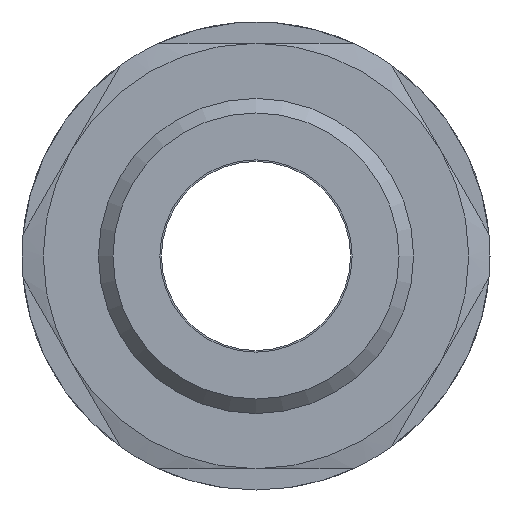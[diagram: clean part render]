
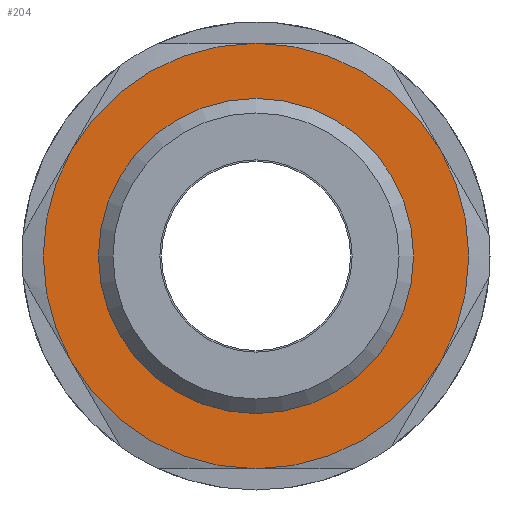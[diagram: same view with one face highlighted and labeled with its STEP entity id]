
A CAD part, front view. The second image highlights one B-rep face of the part: STEP entity #204.
In plain terms, the highlighted planar face has unit normal (0, -1, 0) as drawn and (1, 0, 0) by its records, which use the part's own axes.
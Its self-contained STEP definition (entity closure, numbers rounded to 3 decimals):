
#204 = ADVANCED_FACE( '', ( #423, #424 ), #425, .F. );
#423 = FACE_BOUND( '', #669, .T. );
#424 = FACE_OUTER_BOUND( '', #670, .T. );
#425 = PLANE( '', #671 );
#669 = EDGE_LOOP( '', ( #1069 ) );
#670 = EDGE_LOOP( '', ( #1070, #1071, #1072, #1073, #1074, #1075 ) );
#671 = AXIS2_PLACEMENT_3D( '', #1076, #1077, #1078 );
#1069 = ORIENTED_EDGE( '', *, *, #1520, .F. );
#1070 = ORIENTED_EDGE( '', *, *, #1485, .T. );
#1071 = ORIENTED_EDGE( '', *, *, #1521, .T. );
#1072 = ORIENTED_EDGE( '', *, *, #1449, .T. );
#1073 = ORIENTED_EDGE( '', *, *, #1522, .T. );
#1074 = ORIENTED_EDGE( '', *, *, #1504, .T. );
#1075 = ORIENTED_EDGE( '', *, *, #1416, .T. );
#1076 = CARTESIAN_POINT( '', ( 6., 13.5, 0. ) );
#1077 = DIRECTION( '', ( -1., 0., 0. ) );
#1078 = DIRECTION( '', ( 0., 0., 1. ) );
#1416 = EDGE_CURVE( '', #1668, #1665, #1669, .T. );
#1449 = EDGE_CURVE( '', #1725, #1722, #1726, .T. );
#1485 = EDGE_CURVE( '', #1665, #1711, #1780, .T. );
#1504 = EDGE_CURVE( '', #1700, #1668, #1808, .T. );
#1520 = EDGE_CURVE( '', #1827, #1827, #1828, .T. );
#1521 = EDGE_CURVE( '', #1711, #1725, #1829, .T. );
#1522 = EDGE_CURVE( '', #1722, #1700, #1830, .T. );
#1665 = VERTEX_POINT( '', #2018 );
#1668 = VERTEX_POINT( '', #2026 );
#1669 = CIRCLE( '', #2027, 13.5 );
#1700 = VERTEX_POINT( '', #2066 );
#1711 = VERTEX_POINT( '', #2086 );
#1722 = VERTEX_POINT( '', #2105 );
#1725 = VERTEX_POINT( '', #2111 );
#1726 = CIRCLE( '', #2112, 13.5 );
#1780 = CIRCLE( '', #2240, 13.5 );
#1808 = CIRCLE( '', #2285, 13.5 );
#1827 = VERTEX_POINT( '', #2312 );
#1828 = CIRCLE( '', #2313, 10. );
#1829 = CIRCLE( '', #2314, 13.5 );
#1830 = CIRCLE( '', #2315, 13.5 );
#2018 = CARTESIAN_POINT( '', ( 6., 0., -13.5 ) );
#2026 = CARTESIAN_POINT( '', ( 6., -11.691, -6.75 ) );
#2027 = AXIS2_PLACEMENT_3D( '', #2495, #2496, #2497 );
#2066 = CARTESIAN_POINT( '', ( 6., -11.691, 6.75 ) );
#2086 = CARTESIAN_POINT( '', ( 6., 11.691, -6.75 ) );
#2105 = CARTESIAN_POINT( '', ( 6., 0., 13.5 ) );
#2111 = CARTESIAN_POINT( '', ( 6., 11.691, 6.75 ) );
#2112 = AXIS2_PLACEMENT_3D( '', #2538, #2539, #2540 );
#2240 = AXIS2_PLACEMENT_3D( '', #2567, #2568, #2569 );
#2285 = AXIS2_PLACEMENT_3D( '', #2592, #2593, #2594 );
#2312 = CARTESIAN_POINT( '', ( 6., 0., -10. ) );
#2313 = AXIS2_PLACEMENT_3D( '', #2617, #2618, #2619 );
#2314 = AXIS2_PLACEMENT_3D( '', #2620, #2621, #2622 );
#2315 = AXIS2_PLACEMENT_3D( '', #2623, #2624, #2625 );
#2495 = CARTESIAN_POINT( '', ( 6., 0., 0. ) );
#2496 = DIRECTION( '', ( 1., 0., 0. ) );
#2497 = DIRECTION( '', ( 0., 0., -1. ) );
#2538 = CARTESIAN_POINT( '', ( 6., 0., 0. ) );
#2539 = DIRECTION( '', ( 1., 0., 0. ) );
#2540 = DIRECTION( '', ( 0., 0., -1. ) );
#2567 = CARTESIAN_POINT( '', ( 6., 0., 0. ) );
#2568 = DIRECTION( '', ( 1., 0., 0. ) );
#2569 = DIRECTION( '', ( 0., 0., -1. ) );
#2592 = CARTESIAN_POINT( '', ( 6., 0., 0. ) );
#2593 = DIRECTION( '', ( 1., 0., 0. ) );
#2594 = DIRECTION( '', ( 0., 0., -1. ) );
#2617 = CARTESIAN_POINT( '', ( 6., 0., 0. ) );
#2618 = DIRECTION( '', ( 1., 0., 0. ) );
#2619 = DIRECTION( '', ( 0., 0., -1. ) );
#2620 = CARTESIAN_POINT( '', ( 6., 0., 0. ) );
#2621 = DIRECTION( '', ( 1., 0., 0. ) );
#2622 = DIRECTION( '', ( 0., 0., -1. ) );
#2623 = CARTESIAN_POINT( '', ( 6., 0., 0. ) );
#2624 = DIRECTION( '', ( 1., 0., 0. ) );
#2625 = DIRECTION( '', ( 0., 0., -1. ) );
